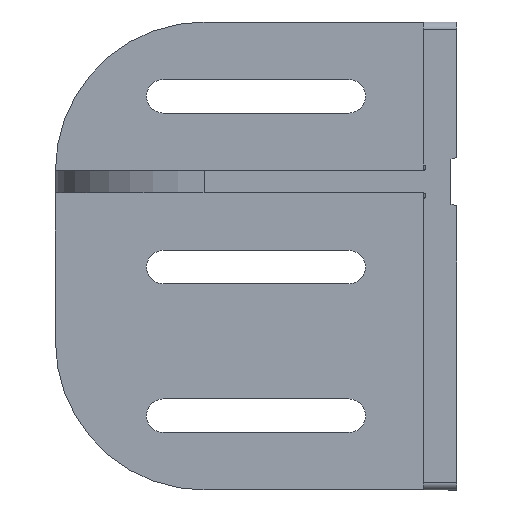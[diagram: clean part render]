
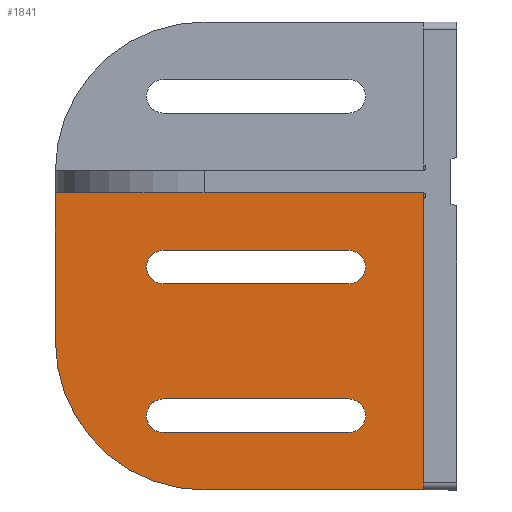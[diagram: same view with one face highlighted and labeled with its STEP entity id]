
A CAD part, left-side view. The second image highlights one B-rep face of the part: STEP entity #1841.
In plain terms, the highlighted planar face has unit normal (-1, 0, 0).
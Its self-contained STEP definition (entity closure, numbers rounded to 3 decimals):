
#11 = CARTESIAN_POINT ( 'NONE',  ( 40., 108., -126. ) ) ;
#17 = DIRECTION ( 'NONE',  ( 0., -1., 0. ) ) ;
#18 = CARTESIAN_POINT ( 'NONE',  ( 40., 108., -101.5 ) ) ;
#19 = DIRECTION ( 'NONE',  ( 0., -1., 0. ) ) ;
#198 = CARTESIAN_POINT ( 'NONE',  ( 40., 79., -106. ) ) ;
#199 = DIRECTION ( 'NONE',  ( 1., 0., 0. ) ) ;
#200 = DIRECTION ( 'NONE',  ( 0., 0., -1. ) ) ;
#207 = CARTESIAN_POINT ( 'NONE',  ( 40., 9., -63. ) ) ;
#216 = CARTESIAN_POINT ( 'NONE',  ( 40., 108., -46. ) ) ;
#217 = DIRECTION ( 'NONE',  ( 0., -1., 0. ) ) ;
#218 = DIRECTION ( 'NONE',  ( 0., 0., 1. ) ) ;
#226 = DIRECTION ( 'NONE',  ( 0., 1., 0. ) ) ;
#228 = CARTESIAN_POINT ( 'NONE',  ( 40., 108., -110.5 ) ) ;
#230 = CARTESIAN_POINT ( 'NONE',  ( 40., 29., -106. ) ) ;
#231 = DIRECTION ( 'NONE',  ( 1., 0., 0. ) ) ;
#232 = DIRECTION ( 'NONE',  ( 0., 0., -1. ) ) ;
#306 = CARTESIAN_POINT ( 'NONE',  ( 40., 9., -46. ) ) ;
#309 = CARTESIAN_POINT ( 'NONE',  ( 40., 79., -101.5 ) ) ;
#315 = CARTESIAN_POINT ( 'NONE',  ( 40., 108., -86. ) ) ;
#319 = CARTESIAN_POINT ( 'NONE',  ( 40., 29., -70.5 ) ) ;
#320 = CARTESIAN_POINT ( 'NONE',  ( 40., 108., -46. ) ) ;
#373 = CARTESIAN_POINT ( 'NONE',  ( 40., 79., -66. ) ) ;
#374 = DIRECTION ( 'NONE',  ( 1., 0., 0. ) ) ;
#375 = DIRECTION ( 'NONE',  ( 0., 0., -1. ) ) ;
#546 = CARTESIAN_POINT ( 'NONE',  ( 40., 79., -70.5 ) ) ;
#553 = CARTESIAN_POINT ( 'NONE',  ( 40., 29., -101.5 ) ) ;
#604 = DIRECTION ( 'NONE',  ( 1., 0., 0. ) ) ;
#606 = CARTESIAN_POINT ( 'NONE',  ( 40., 108., -63. ) ) ;
#607 = PLANE ( 'NONE',  #2333 ) ;
#609 = DIRECTION ( 'NONE',  ( 0., 0., -1. ) ) ;
#828 = CARTESIAN_POINT ( 'NONE',  ( 40., 108., -70.5 ) ) ;
#829 = DIRECTION ( 'NONE',  ( 0., 1., 0. ) ) ;
#848 = CARTESIAN_POINT ( 'NONE',  ( 40., 108., -63. ) ) ;
#849 = DIRECTION ( 'NONE',  ( 0., 0., 1. ) ) ;
#863 = EDGE_CURVE ( 'NONE', #1620, #1585, #1152, .T. ) ;
#864 = EDGE_CURVE ( 'NONE', #1602, #1620, #1141, .T. ) ;
#874 = EDGE_CURVE ( 'NONE', #1604, #1573, #1125, .T. ) ;
#883 = EDGE_CURVE ( 'NONE', #1586, #1568, #1105, .T. ) ;
#884 = EDGE_CURVE ( 'NONE', #1657, #1568, #1107, .T. ) ;
#889 = EDGE_CURVE ( 'NONE', #1735, #1670, #1096, .T. ) ;
#890 = EDGE_CURVE ( 'NONE', #1670, #1604, #1092, .T. ) ;
#931 = EDGE_CURVE ( 'NONE', #1581, #1679, #1025, .T. ) ;
#955 = EDGE_CURVE ( 'NONE', #1723, #1602, #2532, .T. ) ;
#964 = EDGE_CURVE ( 'NONE', #1679, #1657, #2518, .T. ) ;
#965 = EDGE_CURVE ( 'NONE', #1573, #1735, #2524, .T. ) ;
#991 = EDGE_CURVE ( 'NONE', #1585, #1723, #2802, .T. ) ;
#997 = EDGE_CURVE ( 'NONE', #1581, #1586, #2693, .T. ) ;
#1025 = CIRCLE ( 'NONE', #2397, 40. ) ;
#1090 = VECTOR ( 'NONE', #226, 1000. ) ;
#1092 = LINE ( 'NONE', #228, #1090 ) ;
#1096 = CIRCLE ( 'NONE', #2297, 4.5 ) ;
#1100 = VECTOR ( 'NONE', #218, 1000. ) ;
#1102 = VECTOR ( 'NONE', #217, 1000. ) ;
#1105 = LINE ( 'NONE', #216, #1102 ) ;
#1107 = LINE ( 'NONE', #207, #1100 ) ;
#1125 = CIRCLE ( 'NONE', #2427, 4.5 ) ;
#1138 = VECTOR ( 'NONE', #2445, 1000. ) ;
#1141 = LINE ( 'NONE', #2448, #1138 ) ;
#1152 = CIRCLE ( 'NONE', #2343, 4.5 ) ;
#1222 = EDGE_LOOP ( 'NONE', ( #1438, #1437, #1440, #1439 ) ) ;
#1225 = EDGE_LOOP ( 'NONE', ( #1451, #1450, #1453, #1452, #1456 ) ) ;
#1233 = EDGE_LOOP ( 'NONE', ( #1442, #1441, #1445, #1443 ) ) ;
#1437 = ORIENTED_EDGE ( 'NONE', *, *, #965, .T. ) ;
#1438 = ORIENTED_EDGE ( 'NONE', *, *, #874, .T. ) ;
#1439 = ORIENTED_EDGE ( 'NONE', *, *, #890, .T. ) ;
#1440 = ORIENTED_EDGE ( 'NONE', *, *, #889, .T. ) ;
#1441 = ORIENTED_EDGE ( 'NONE', *, *, #864, .T. ) ;
#1442 = ORIENTED_EDGE ( 'NONE', *, *, #955, .T. ) ;
#1443 = ORIENTED_EDGE ( 'NONE', *, *, #991, .T. ) ;
#1445 = ORIENTED_EDGE ( 'NONE', *, *, #863, .T. ) ;
#1450 = ORIENTED_EDGE ( 'NONE', *, *, #931, .T. ) ;
#1451 = ORIENTED_EDGE ( 'NONE', *, *, #997, .F. ) ;
#1452 = ORIENTED_EDGE ( 'NONE', *, *, #884, .T. ) ;
#1453 = ORIENTED_EDGE ( 'NONE', *, *, #964, .T. ) ;
#1456 = ORIENTED_EDGE ( 'NONE', *, *, #883, .F. ) ;
#1568 = VERTEX_POINT ( 'NONE', #306 ) ;
#1573 = VERTEX_POINT ( 'NONE', #309 ) ;
#1581 = VERTEX_POINT ( 'NONE', #315 ) ;
#1585 = VERTEX_POINT ( 'NONE', #319 ) ;
#1586 = VERTEX_POINT ( 'NONE', #320 ) ;
#1602 = VERTEX_POINT ( 'NONE', #1748 ) ;
#1604 = VERTEX_POINT ( 'NONE', #1750 ) ;
#1620 = VERTEX_POINT ( 'NONE', #1766 ) ;
#1657 = VERTEX_POINT ( 'NONE', #1802 ) ;
#1670 = VERTEX_POINT ( 'NONE', #1811 ) ;
#1679 = VERTEX_POINT ( 'NONE', #1819 ) ;
#1723 = VERTEX_POINT ( 'NONE', #546 ) ;
#1735 = VERTEX_POINT ( 'NONE', #553 ) ;
#1748 = CARTESIAN_POINT ( 'NONE',  ( 40., 79., -61.5 ) ) ;
#1750 = CARTESIAN_POINT ( 'NONE',  ( 40., 79., -110.5 ) ) ;
#1766 = CARTESIAN_POINT ( 'NONE',  ( 40., 29., -61.5 ) ) ;
#1802 = CARTESIAN_POINT ( 'NONE',  ( 40., 9., -126. ) ) ;
#1811 = CARTESIAN_POINT ( 'NONE',  ( 40., 29., -110.5 ) ) ;
#1819 = CARTESIAN_POINT ( 'NONE',  ( 40., 68., -126. ) ) ;
#1841 = ADVANCED_FACE ( 'NONE', ( #2657, #2732, #2764 ), #607, .F. ) ;
#2149 = CARTESIAN_POINT ( 'NONE',  ( 40., 68., -86. ) ) ;
#2150 = DIRECTION ( 'NONE',  ( -1., 0., 0. ) ) ;
#2151 = DIRECTION ( 'NONE',  ( 0., 0., -1. ) ) ;
#2297 = AXIS2_PLACEMENT_3D ( 'NONE', #230, #231, #232 ) ;
#2333 = AXIS2_PLACEMENT_3D ( 'NONE', #606, #604, #609 ) ;
#2343 = AXIS2_PLACEMENT_3D ( 'NONE', #2449, #2450, #2451 ) ;
#2352 = AXIS2_PLACEMENT_3D ( 'NONE', #373, #374, #375 ) ;
#2397 = AXIS2_PLACEMENT_3D ( 'NONE', #2149, #2150, #2151 ) ;
#2427 = AXIS2_PLACEMENT_3D ( 'NONE', #198, #199, #200 ) ;
#2445 = DIRECTION ( 'NONE',  ( 0., -1., 0. ) ) ;
#2448 = CARTESIAN_POINT ( 'NONE',  ( 40., 108., -61.5 ) ) ;
#2449 = CARTESIAN_POINT ( 'NONE',  ( 40., 29., -66. ) ) ;
#2450 = DIRECTION ( 'NONE',  ( 1., 0., 0. ) ) ;
#2451 = DIRECTION ( 'NONE',  ( 0., 0., -1. ) ) ;
#2518 = LINE ( 'NONE', #11, #2603 ) ;
#2524 = LINE ( 'NONE', #18, #2749 ) ;
#2532 = CIRCLE ( 'NONE', #2352, 4.5 ) ;
#2603 = VECTOR ( 'NONE', #17, 1000. ) ;
#2657 = FACE_BOUND ( 'NONE', #1222, .T. ) ;
#2690 = VECTOR ( 'NONE', #849, 1000. ) ;
#2693 = LINE ( 'NONE', #848, #2690 ) ;
#2698 = VECTOR ( 'NONE', #829, 1000. ) ;
#2732 = FACE_BOUND ( 'NONE', #1233, .T. ) ;
#2749 = VECTOR ( 'NONE', #19, 1000. ) ;
#2764 = FACE_OUTER_BOUND ( 'NONE', #1225, .T. ) ;
#2802 = LINE ( 'NONE', #828, #2698 ) ;
